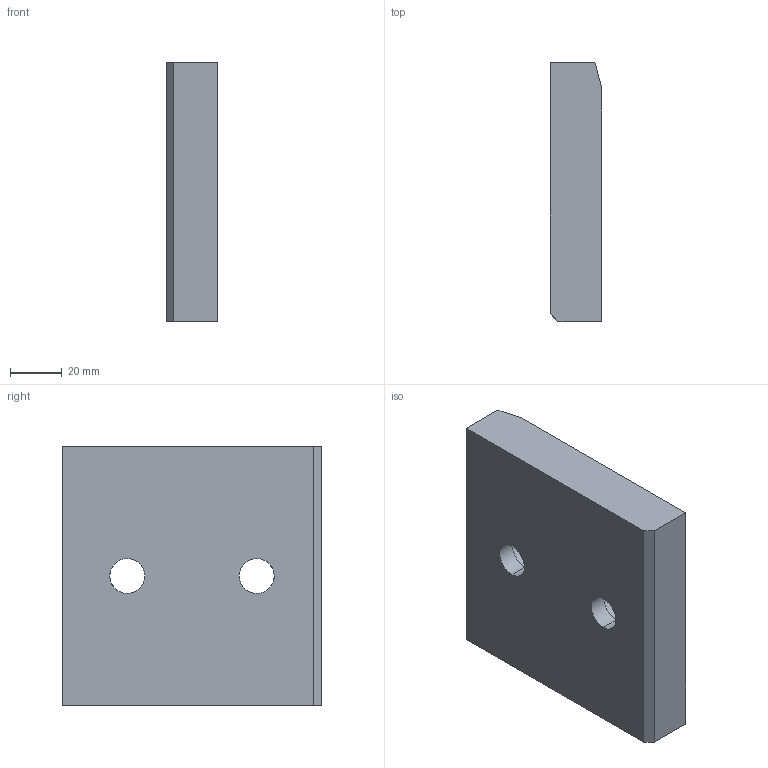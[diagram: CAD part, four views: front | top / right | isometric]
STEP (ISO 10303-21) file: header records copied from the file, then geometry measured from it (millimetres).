
FILE_DESCRIPTION(('CATIA V5 STEP Exchange'),'2;1');
FILE_NAME('C:\Users\borellobunino\Desktop\3D X SITO CF\A915\GSB_OILLESS_G22501100100\STEP-2.03\A915-100X100.stp','2019-07-14T13:12:31+00:00',('none'),('none'),'CATIA Version 5 Release 20 GA (IN-10)','CATIA V5 STEP AP203','none');
FILE_SCHEMA(('CONFIG_CONTROL_DESIGN'));
Length unit declared in the file: millimetre
Products named in the file (1): A915-100X100
Bounding box: 20 x 100 x 100 mm (x, y, z)
Volume: 187777.3 mm3; surface area: 29056 mm2
Topology: 1 solids, 1 shells, 23 faces, 73 edges, 54 vertices
Faces by surface type: plane 10, cylinder 9, torus 4
Entity records: 1057 total; most frequent: CARTESIAN_POINT 375, ORIENTED_EDGE 146, DIRECTION 103, EDGE_CURVE 73, AXIS2_PLACEMENT_3D 54, VERTEX_POINT 54, CIRCLE 30, EDGE_LOOP 29
